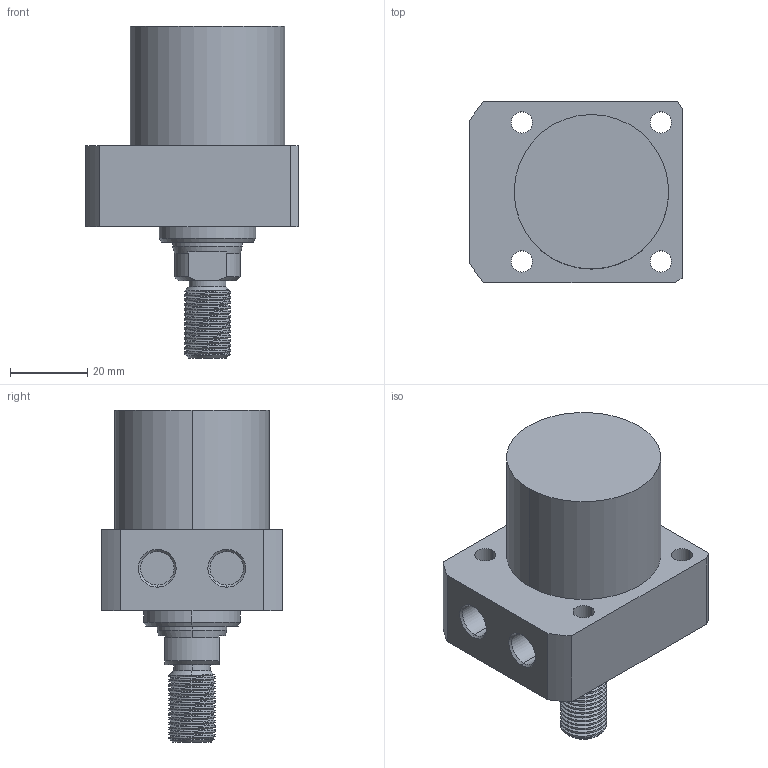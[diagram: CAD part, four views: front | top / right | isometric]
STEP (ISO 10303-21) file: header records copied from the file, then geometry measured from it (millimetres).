
FILE_DESCRIPTION (( 'STEP AP214' ), '1' );
FILE_NAME ('CLLR-040CT-020.STEP', '2020-01-08T10:40:39', ( 'Windows' ), ( 'Microsoft' ), 'SwSTEP 2.0', 'SolidWorks 2015', '' );
FILE_SCHEMA (( 'AUTOMOTIVE_DESIGN' ));
Length unit declared in the file: millimetre
Products named in the file (1): CLLR-040CT-020
Bounding box: 55 x 47 x 86 mm (x, y, z)
Volume: 95017 mm3; surface area: 17198.6 mm2
Topology: 1 solids, 1 shells, 93 faces, 237 edges, 154 vertices
Faces by surface type: cylinder 56, plane 20, cone 15, bspline 2
Entity records: 4508 total; most frequent: CARTESIAN_POINT 2295, ORIENTED_EDGE 474, DIRECTION 424, EDGE_CURVE 237, AXIS2_PLACEMENT_3D 166, VERTEX_POINT 154, EDGE_LOOP 109, FACE_OUTER_BOUND 93
